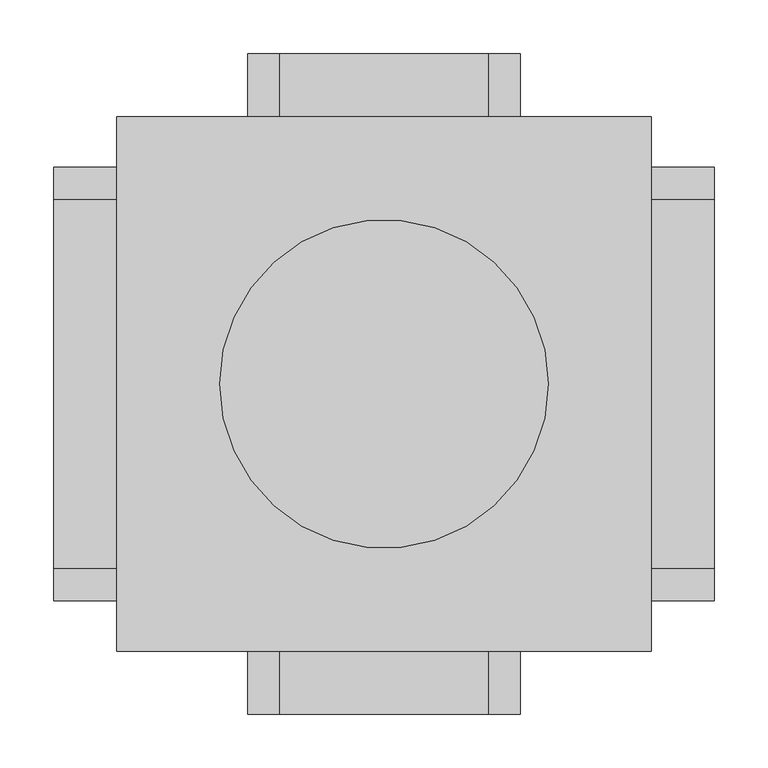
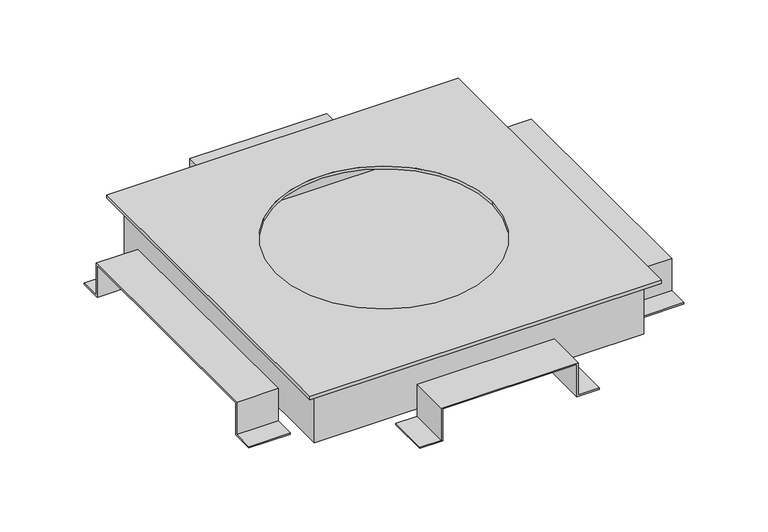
"""IFC4 building model written with IfcOpenShell, lengths in millimetres: cable carrier fitting geometry, Electrical-Installations_Hager_Universal-Junction-Box-With-Retaining-Tabs-Size-3 : Universal junction box with retaining tabs size 3."""

import ifcopenshell
import ifcopenshell.guid

model = None  # the IFC model being written
_history = None  # IfcOwnerHistory: only IFC2X3 demands one
_inside = {}  # id of a spatial element -> (the spatial element, [elements in it])
_under = {}  # id of a project, library or spatial element -> (it, [spatial elements below it])
_declared = {}  # id of a project -> (the project, [libraries it declares])
_typed = {}  # id of a type object -> (the type object, [elements of that type])
_made_of = {}  # id of a material, layer set ... -> (it, [elements and type objects made of it])


def new_model(schema):
    """Start an empty IFC model of exactly this schema.

    Asked for "IFC4X3", IfcOpenShell would pick the latest addendum, in which some entities
    have other attributes; the version numbers below select the first issue.
    IFC2X3 requires an IfcOwnerHistory on every rooted entity: one is made here for all.
    """
    global model, _history
    if schema == "IFC4X3":
        model = ifcopenshell.file(schema_version=(4, 3, 0, 0))
    else:
        model = ifcopenshell.file(schema=schema)
    _inside.clear()
    _under.clear()
    _declared.clear()
    _typed.clear()
    _made_of.clear()
    _history = None
    if model.schema == "IFC2X3":
        org = make("IfcOrganization", Name="unknown")
        user = make(
            "IfcPersonAndOrganization",
            ThePerson=make("IfcPerson", FamilyName="unknown"),
            TheOrganization=org,
        )
        app = make(
            "IfcApplication",
            ApplicationDeveloper=org,
            Version="unknown",
            ApplicationFullName="unknown",
            ApplicationIdentifier="unknown",
        )
        _history = make(
            "IfcOwnerHistory",
            OwningUser=user,
            OwningApplication=app,
            ChangeAction="ADDED",
            CreationDate=0,
        )
    return model


def make(cls, **values):
    """One entity of the class cls with the attributes given. An attribute that is None is left unset."""
    return model.create_entity(
        cls, **{name: value for name, value in values.items() if value is not None}
    )


def rooted(cls, **values):
    """An entity with a GlobalId (a new one), such as an element, a storey or a relation."""
    return make(cls, GlobalId=ifcopenshell.guid.new(), OwnerHistory=_history, **values)


def si_unit(unit_type, name, prefix=None):
    """IfcSIUnit, for example si_unit("LENGTHUNIT", "METRE", prefix="MILLI")."""
    return make("IfcSIUnit", UnitType=unit_type, Prefix=prefix, Name=name)


def assignment(units):
    """IfcUnitAssignment: the units of a project."""
    return None if units is None else make("IfcUnitAssignment", Units=units)


def point(xyz):
    """IfcCartesianPoint."""
    return None if xyz is None else make("IfcCartesianPoint", Coordinates=xyz)


def direction(xyz):
    """IfcDirection."""
    return None if xyz is None else make("IfcDirection", DirectionRatios=xyz)


def frame(location, z_axis=None, x_axis=None):
    """IfcAxis2Placement3D, a coordinate frame: its origin and axes. An axis left out is left unset."""
    return make(
        "IfcAxis2Placement3D",
        Location=point(location),
        Axis=direction(z_axis),
        RefDirection=direction(x_axis),
    )


def origin():
    """The frame at (0, 0, 0) with its axes left unset."""
    return frame((0.0, 0.0, 0.0))


def place(relative_to, where):
    """IfcLocalPlacement: puts the frame where relative to a parent placement (None: the world)."""
    return make(
        "IfcLocalPlacement", PlacementRelTo=relative_to, RelativePlacement=where
    )


def context(
    kind, dimensions, precision=None, world=None, true_north=None, identifier=None
):
    """IfcGeometricRepresentationContext, for example the 3D "Model" context."""
    return make(
        "IfcGeometricRepresentationContext",
        ContextIdentifier=identifier,
        ContextType=kind,
        CoordinateSpaceDimension=dimensions,
        Precision=precision,
        WorldCoordinateSystem=world,
        TrueNorth=true_north,
    )


def project(units=None, contexts=None):
    """IfcProject with its units and contexts."""
    return rooted(
        "IfcProject",
        Name="project",
        RepresentationContexts=contexts,
        UnitsInContext=assignment(units),
    )


def spatial(cls, under=None, at=None, **own):
    """A site, building, storey or space (cls), placed at a placement, below another one or the project."""
    s = rooted(cls, ObjectPlacement=at, **own)
    if under is not None:
        _under.setdefault(under.id(), (under, []))[1].append(s)
    return s


def polyline(points):
    """IfcPolyline through the points."""
    return make("IfcPolyline", Points=[point(p) for p in points])


def circle_curve(where, radius):
    """IfcCircle in the frame where."""
    return make("IfcCircle", Position=where, Radius=radius)


def outline(outer, holes=None, kind="AREA"):
    """IfcArbitraryClosedProfileDef: a profile drawn as a closed curve; with holes, ...WithVoids."""
    if holes is None:
        return make("IfcArbitraryClosedProfileDef", ProfileType=kind, OuterCurve=outer)
    return make(
        "IfcArbitraryProfileDefWithVoids",
        ProfileType=kind,
        OuterCurve=outer,
        InnerCurves=holes,
    )


def extrude(swept, where, along, depth):
    """IfcExtrudedAreaSolid: the profile swept, set in the frame where, extruded along a direction by depth."""
    return make(
        "IfcExtrudedAreaSolid",
        SweptArea=swept,
        Position=where,
        ExtrudedDirection=direction(along),
        Depth=depth,
    )


def faces_of(points, faces, orient=None, outer=None):
    """IfcFace entities. A face is a list of loops; a loop is a list of indices into points, from 0.

    orient and outer hold one flag for each loop. By default every Orientation is true, the
    first loop of a face is its IfcFaceOuterBound and the others are IfcFaceBound.
    """
    made = []
    for i, loops in enumerate(faces):
        bounds = []
        for j, loop in enumerate(loops):
            is_outer = j == 0 if outer is None else outer[i][j]
            bounds.append(
                make(
                    "IfcFaceOuterBound" if is_outer else "IfcFaceBound",
                    Bound=make("IfcPolyLoop", Polygon=[points[k] for k in loop]),
                    Orientation=True if orient is None else orient[i][j],
                )
            )
        made.append(make("IfcFace", Bounds=bounds))
    return made


def faceted_brep(points, faces, orient=None, outer=None, voids=None):
    """IfcFacetedBrep: a solid bounded by flat faces; with voids (closed shells), ...WithVoids."""
    shared = [point(p) for p in points]
    hull = make("IfcClosedShell", CfsFaces=faces_of(shared, faces, orient, outer))
    if voids is None:
        return make("IfcFacetedBrep", Outer=hull)
    return make(
        "IfcFacetedBrepWithVoids",
        Outer=hull,
        Voids=[
            make(cls, CfsFaces=faces_of(shared, fs, o, b)) for cls, fs, o, b in voids
        ],
    )


def shape(context_of_items, identifier, shape_type, items):
    """IfcShapeRepresentation: the items that make up one representation, for example the "Body"."""
    return make(
        "IfcShapeRepresentation",
        ContextOfItems=context_of_items,
        RepresentationIdentifier=identifier,
        RepresentationType=shape_type,
        Items=items,
    )


def source(mapping_origin, context_of_items, identifier, shape_type, items):
    """IfcRepresentationMap: a shape defined once, which mapped items show again and again."""
    return make(
        "IfcRepresentationMap",
        MappingOrigin=mapping_origin,
        MappedRepresentation=shape(context_of_items, identifier, shape_type, items),
    )


def transform(
    local_origin,
    x_axis=None,
    y_axis=None,
    z_axis=None,
    scale=None,
    scale2=None,
    scale3=None,
    uniform=True,
):
    """IfcCartesianTransformationOperator3D, or its non-uniform kind. x_axis, y_axis, z_axis: its Axis1, 2, 3."""
    if uniform:
        return make(
            "IfcCartesianTransformationOperator3D",
            Axis1=direction(x_axis),
            Axis2=direction(y_axis),
            LocalOrigin=point(local_origin),
            Scale=scale,
            Axis3=direction(z_axis),
        )
    return make(
        "IfcCartesianTransformationOperator3DnonUniform",
        Axis1=direction(x_axis),
        Axis2=direction(y_axis),
        LocalOrigin=point(local_origin),
        Scale=scale,
        Axis3=direction(z_axis),
        Scale2=scale2,
        Scale3=scale3,
    )


def mapped(mapping_source, mapping_target):
    """IfcMappedItem: shows the shape of a source again, moved by a transform."""
    return make(
        "IfcMappedItem", MappingSource=mapping_source, MappingTarget=mapping_target
    )


def made_of(thing, what):
    """Note that an element or type object is made of a material, layer set ...; save() writes the relation."""
    if what is not None:
        _made_of.setdefault(what.id(), (what, []))[1].append(thing)
    return thing


def element(
    cls,
    number,
    at=None,
    inside=None,
    cuts=None,
    type_object=None,
    material=None,
    context=None,
    identifier="Body",
    shape_type=None,
    held_by="IfcProductDefinitionShape",
    body=None,
    shapes=None,
    **own,
):
    """One element of the class cls, such as IfcWall. Its Tag is "e" and its number.

    at: its placement. inside: the storey or other place that contains it. cuts: it is an
    opening in that element (IfcRelVoidsElement). A single representation is given by context,
    identifier, shape_type and body (its items); several are given by shapes. held_by: the class
    of the entity that holds the representations. save() writes the other relations.
    """
    e = rooted(cls, Tag="e%d" % number, ObjectPlacement=at, **own)
    if body is not None:
        shapes = [shape(context, identifier, shape_type, body)]
    if shapes is not None:
        e.Representation = make(held_by, Representations=shapes)
    if inside is not None:
        _inside.setdefault(inside.id(), (inside, []))[1].append(e)
    if cuts is not None:
        rooted(
            "IfcRelVoidsElement", RelatingBuildingElement=cuts, RelatedOpeningElement=e
        )
    if type_object is not None:
        _typed.setdefault(type_object.id(), (type_object, []))[1].append(e)
    return made_of(e, material)


def aggregate(whole, parts):
    """IfcRelAggregates: a whole, such as a stair, and the parts it consists of."""
    return rooted("IfcRelAggregates", RelatingObject=whole, RelatedObjects=parts)


def save(model, path):
    """Write the relations noted so far, then the file.

    IfcRelAggregates (storeys below a building ...), IfcRelContainedInSpatialStructure (elements
    in a storey), IfcRelDefinesByType, IfcRelAssociatesMaterial and IfcRelDeclares: one each for
    every whole, place, type object, material and project.
    """
    for whole, parts in _under.values():
        aggregate(whole, parts)
    for where, things in _inside.values():
        rooted(
            "IfcRelContainedInSpatialStructure",
            RelatedElements=things,
            RelatingStructure=where,
        )
    for kind, things in _typed.values():
        rooted("IfcRelDefinesByType", RelatedObjects=things, RelatingType=kind)
    for what, things in _made_of.values():
        rooted("IfcRelAssociatesMaterial", RelatedObjects=things, RelatingMaterial=what)
    for by, libraries in _declared.values():
        rooted("IfcRelDeclares", RelatingContext=by, RelatedDefinitions=libraries)
    model.write(path)


def plane_surface(at):
    """IfcPlane: the flat surface through the origin of the frame at, square to its z axis."""
    return make("IfcPlane", Position=at)


def revolved_surface(curve, axis_point, axis_direction):
    """IfcSurfaceOfRevolution: the curve turned about the line through axis_point along axis_direction."""
    return make(
        "IfcSurfaceOfRevolution",
        SweptCurve=make("IfcArbitraryOpenProfileDef", ProfileType="CURVE", Curve=curve),
        AxisPosition=make("IfcAxis1Placement", Location=point(axis_point), Axis=direction(axis_direction)),
    )


def advanced_brep(points, edges, surfaces, faces):
    """IfcAdvancedBrep: a solid bounded by faces that lie on surfaces and meet in shared edges.

    An edge is (start, end): straight between two places in points (the first is 0);
    or (start, end, curve); or (start, end, curve, False) where it runs against its curve.
    A face is (place in surfaces, loops), or (place, loops, False) where it looks against
    its surface's normal. A loop lists edges by number (the first is 1), with a minus sign
    where the edge is run from its end to its start. The first loop is the outer one.
    """
    corners = [point(p) for p in points]
    vertices = [make("IfcVertexPoint", VertexGeometry=c) for c in corners]
    made = []
    for start, end, *more in edges:
        made.append(
            make(
                "IfcEdgeCurve",
                EdgeStart=vertices[start],
                EdgeEnd=vertices[end],
                EdgeGeometry=more[0] if more else make("IfcPolyline", Points=[corners[start], corners[end]]),
                SameSense=more[1] if len(more) > 1 else True,
            )
        )
    hull = []
    for where, loops, *sense in faces:
        bounds = []
        for j, loop in enumerate(loops):
            ring = [make("IfcOrientedEdge", EdgeElement=made[abs(k) - 1], Orientation=k > 0) for k in loop]
            bounds.append(
                make(
                    "IfcFaceOuterBound" if j == 0 else "IfcFaceBound",
                    Bound=make("IfcEdgeLoop", EdgeList=ring),
                    Orientation=True,
                )
            )
        hull.append(make("IfcAdvancedFace", Bounds=bounds, FaceSurface=surfaces[where], SameSense=sense[0] if sense else True))
    return make("IfcAdvancedBrep", Outer=make("IfcClosedShell", CfsFaces=hull))


def cable_carrier_fitting_f97b21a2(model_context):
    return source(origin(), model_context, "Body", "SolidModel", [
        extrude(outline(polyline([(-24.0, -127.0), (-24.0, -95.0), (24.0, -95.0), (24.0, 95.0), (-24.0, 95.0), (-24.0, 127.0), (-22.0, 127.0), (-22.0, 97.0), (26.0, 97.0), (26.0, -97.0), (-22.0, -97.0), (-22.0, -127.0), (-24.0, -127.0)])), frame((0.0, 249.0, 0.0), z_axis=(0.0, 1.0, 0.0), x_axis=(0.0, 0.0, 1.0)), (0.0, 0.0, 1.0), 59.0),
        extrude(outline(polyline([(-202.0, -24.0), (-202.0, -22.0), (-172.0, -22.0), (-172.0, 26.0), (172.0, 26.0), (172.0, -22.0), (202.0, -22.0), (202.0, -24.0), (170.0, -24.0), (170.0, 24.0), (-170.0, 24.0), (-170.0, -24.0), (-202.0, -24.0)])), frame((-308.0, 0.0, 0.0), z_axis=(1.0, 0.0, 0.0), x_axis=(0.0, 1.0, 0.0)), (0.0, 0.0, 1.0), 59.0),
        extrude(outline(polyline([(-24.0, -127.0), (-24.0, -95.0), (24.0, -95.0), (24.0, 95.0), (-24.0, 95.0), (-24.0, 127.0), (-22.0, 127.0), (-22.0, 97.0), (26.0, 97.0), (26.0, -97.0), (-22.0, -97.0), (-22.0, -127.0), (-24.0, -127.0)])), frame((0.0, -308.0, 0.0), z_axis=(0.0, 1.0, 0.0), x_axis=(0.0, 0.0, 1.0)), (0.0, 0.0, 1.0), 59.0),
        extrude(outline(polyline([(-202.0, -24.0), (-202.0, -22.0), (-172.0, -22.0), (-172.0, 26.0), (172.0, 26.0), (172.0, -22.0), (202.0, -22.0), (202.0, -24.0), (170.0, -24.0), (170.0, 24.0), (-170.0, 24.0), (-170.0, -24.0), (-202.0, -24.0)])), frame((249.0, 0.0, 0.0), z_axis=(1.0, 0.0, 0.0), x_axis=(0.0, 1.0, 0.0)), (0.0, 0.0, 1.0), 59.0),
        advanced_brep(
        [(-249.0, -249.0, 61.0), (249.0, -249.0, 61.0), (249.0, 249.0, 61.0), (-249.0, 249.0, 61.0), (-153.0, 0.0, 61.0), (153.0, 0.0, 61.0), (-249.0, -249.0, 56.0), (-249.0, 249.0, 56.0), (249.0, 249.0, 56.0), (249.0, -249.0, 56.0), (227.0, 227.0, 56.0), (-227.0, 227.0, 56.0), (-227.0, -227.0, 56.0), (227.0, -227.0, 56.0), (-153.0, 0.0, 56.7820613), (153.0, 0.0, 56.7820613), (227.0, 227.0, 56.7820613), (227.0, -227.0, 56.7820613), (-227.0, -227.0, 56.7820613), (-227.0, 227.0, 56.7820613)],
        [
            (0, 1),
            (1, 2),
            (2, 3),
            (3, 0),
            (4, 5, circle_curve(frame((0.0, 0.0, 61.0), z_axis=(0.0, 0.0, -1.0), x_axis=(1.0, 0.0, 0.0)), 153.0)),
            (5, 4, circle_curve(frame((0.0, 0.0, 61.0), z_axis=(0.0, 0.0, -1.0), x_axis=(1.0, 0.0, 0.0)), 153.0)),
            (6, 7),
            (7, 8),
            (8, 9),
            (9, 6),
            (10, 11),
            (11, 12),
            (12, 13),
            (13, 10),
            (0, 6),
            (9, 1),
            (8, 2),
            (7, 3),
            (4, 14),
            (14, 15, circle_curve(frame((0.0, 0.0, 56.7820613), z_axis=(0.0, 0.0, -1.0), x_axis=(1.0, 0.0, 0.0)), 153.0)),
            (15, 5),
            (15, 14, circle_curve(frame((0.0, 0.0, 56.7820613), z_axis=(0.0, 0.0, -1.0), x_axis=(1.0, 0.0, 0.0)), 153.0)),
            (16, 17),
            (17, 18),
            (18, 19),
            (19, 16),
            (19, 11),
            (10, 16),
            (18, 12),
            (17, 13),
        ],
        [
            plane_surface(frame((-249.0, -249.0, 61.0), z_axis=(0.0, 0.0, 1.0), x_axis=(1.0, 0.0, 0.0))),
            plane_surface(frame((-249.0, -249.0, 56.0), z_axis=(0.0, 0.0, -1.0), x_axis=(-1.0, 0.0, 0.0))),
            plane_surface(frame((-249.0, -249.0, 61.0), z_axis=(0.0, -1.0, 0.0), x_axis=(0.0, 0.0, -1.0))),
            plane_surface(frame((249.0, -249.0, 61.0), z_axis=(1.0, 0.0, 0.0), x_axis=(0.0, 0.0, -1.0))),
            plane_surface(frame((249.0, 249.0, 61.0), z_axis=(0.0, 1.0, 0.0), x_axis=(0.0, 0.0, -1.0))),
            plane_surface(frame((-249.0, 249.0, 61.0), z_axis=(-1.0, 0.0, 0.0), x_axis=(0.0, 0.0, -1.0))),
            revolved_surface(polyline([(153.0, 0.0, 56.7820613), (153.0, 0.0, 61.0)]), (0.0, 0.0, 0.0), (0.0, 0.0, -1.0)),
            plane_surface(frame((-227.0, 227.0, 56.7820613), z_axis=(0.0, 0.0, -1.0), x_axis=(-1.0, 0.0, 0.0))),
            plane_surface(frame((227.0, 227.0, 56.7820613), z_axis=(0.0, -1.0, 0.0), x_axis=(0.0, 0.0, -1.0))),
            plane_surface(frame((-227.0, 227.0, 56.7820613), z_axis=(1.0, 0.0, 0.0), x_axis=(0.0, 0.0, -1.0))),
            plane_surface(frame((-227.0, -227.0, 56.7820613), z_axis=(0.0, 1.0, 0.0), x_axis=(0.0, 0.0, -1.0))),
            plane_surface(frame((227.0, -227.0, 56.7820613), z_axis=(-1.0, 0.0, 0.0), x_axis=(0.0, 0.0, -1.0))),
        ],
        [
            (0, [[1, 2, 3, 4], [5, 6]]),
            (1, [[7, 8, 9, 10], [11, 12, 13, 14]]),
            (2, [[-1, 15, -10, 16]]),
            (3, [[-2, -16, -9, 17]]),
            (4, [[-3, -17, -8, 18]]),
            (5, [[-4, -18, -7, -15]]),
            (6, [[-5, 19, 20, 21]]),
            (6, [[-6, -21, 22, -19]]),
            (7, [[23, 24, 25, 26], [-20, -22]]),
            (8, [[-26, 27, -11, 28]]),
            (9, [[-25, 29, -12, -27]]),
            (10, [[-24, 30, -13, -29]]),
            (11, [[-23, -28, -14, -30]]),
        ],
    ),
        faceted_brep([(-233.0, 233.0, 56.0), (-233.0, -233.0, 56.0), (233.0, -233.0, 56.0), (233.0, 233.0, 56.0), (-227.0, 227.0, 56.0), (227.0, 227.0, 56.0), (227.0, -227.0, 56.0), (-227.0, -227.0, 56.0), (-233.0, 233.0, -24.0), (233.0, 233.0, -24.0), (233.0, -233.0, -24.0), (-233.0, -233.0, -24.0), (227.0, 227.0, -16.1362798), (-227.0, 227.0, -16.1362798), (-227.0, -227.0, -16.1362798), (227.0, -227.0, -16.1362798)], [[[0, 1, 2, 3], [4, 5, 6, 7]], [[8, 9, 10, 11]], [[1, 0, 8, 11]], [[2, 1, 11, 10]], [[3, 2, 10, 9]], [[0, 3, 9, 8]], [[12, 13, 14, 15]], [[13, 12, 5, 4]], [[14, 13, 4, 7]], [[15, 14, 7, 6]], [[12, 15, 6, 5]]]),
    ])


if __name__ == "__main__":
    model = new_model("IFC4")
    model_context = context("Model", 3, world=origin())
    ifc_project = project(units=[si_unit("LENGTHUNIT", "METRE", prefix="MILLI")], contexts=[model_context])
    site = spatial("IfcSite", under=ifc_project)
    building = spatial("IfcBuilding", under=site)
    placement = place(None, origin())
    cable_carrier_fitting_shape = cable_carrier_fitting_f97b21a2(model_context)
    element("IfcCableCarrierFitting", 1, ObjectType="Electrical-Installations_Hager_Universal-Junction-Box-With-Retaining-Tabs-Size-3 : Universal junction box with retaining tabs size 3", at=placement, inside=building, context=model_context, shape_type="MappedRepresentation", body=[
        mapped(cable_carrier_fitting_shape, transform((0.0, 0.0, 0.0), x_axis=(1.0, 0.0, 0.0), y_axis=(0.0, 1.0, 0.0), z_axis=(0.0, 0.0, 1.0))),
    ])
    save(model, "model.ifc")
